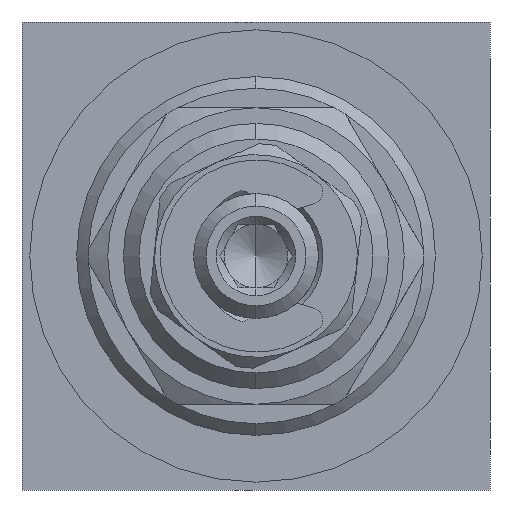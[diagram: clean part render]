
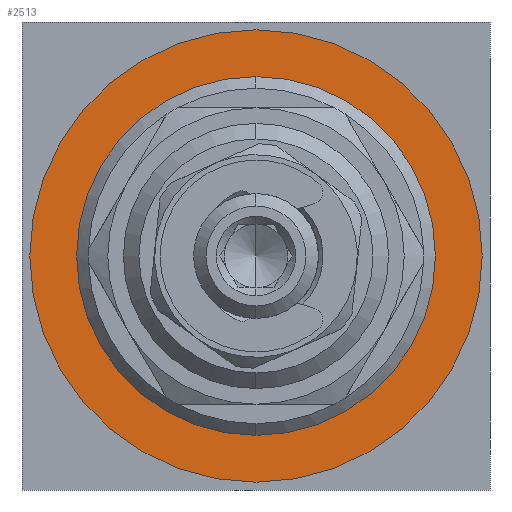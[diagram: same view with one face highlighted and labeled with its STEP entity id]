
A CAD part, left-side view. The second image highlights one B-rep face of the part: STEP entity #2513.
In plain terms, the highlighted planar face has unit normal (-1, 0, 0).
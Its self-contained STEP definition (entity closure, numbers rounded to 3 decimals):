
#33 = FACE_OUTER_BOUND ( 'NONE', #9918, .T. ) ;
#222 = DIRECTION ( 'NONE',  ( -1., 0., 0. ) ) ;
#284 = DIRECTION ( 'NONE',  ( 0., 0., -1. ) ) ;
#287 = CARTESIAN_POINT ( 'NONE',  ( 0.3, 0., 14.5 ) ) ;
#586 = DIRECTION ( 'NONE',  ( -1., 0., 0. ) ) ;
#694 = CARTESIAN_POINT ( 'NONE',  ( 0.3, 0., 11.5 ) ) ;
#751 = CIRCLE ( 'NONE', #8418, 11.5 ) ;
#807 = VERTEX_POINT ( 'NONE', #287 ) ;
#1027 = EDGE_CURVE ( 'NONE', #7122, #807, #10500, .T. ) ;
#1542 = CARTESIAN_POINT ( 'NONE',  ( 0.3, 0., 0. ) ) ;
#1827 = EDGE_CURVE ( 'NONE', #11832, #2607, #7692, .T. ) ;
#1928 = AXIS2_PLACEMENT_3D ( 'NONE', #11246, #10275, #9275 ) ;
#2513 = ADVANCED_FACE ( 'NONE', ( #2634, #33 ), #7369, .T. ) ;
#2607 = VERTEX_POINT ( 'NONE', #7537 ) ;
#2634 = FACE_BOUND ( 'NONE', #10989, .T. ) ;
#3400 = EDGE_CURVE ( 'NONE', #2607, #11832, #751, .T. ) ;
#3741 = ORIENTED_EDGE ( 'NONE', *, *, #3400, .F. ) ;
#4605 = AXIS2_PLACEMENT_3D ( 'NONE', #6108, #222, #7085 ) ;
#5008 = ORIENTED_EDGE ( 'NONE', *, *, #1827, .F. ) ;
#5124 = DIRECTION ( 'NONE',  ( -1., 0., 0. ) ) ;
#5725 = CARTESIAN_POINT ( 'NONE',  ( 0.3, 0., -14.5 ) ) ;
#6108 = CARTESIAN_POINT ( 'NONE',  ( 0.3, 0., 0. ) ) ;
#6734 = AXIS2_PLACEMENT_3D ( 'NONE', #11047, #5124, #8150 ) ;
#7085 = DIRECTION ( 'NONE',  ( 0., 0., 1. ) ) ;
#7122 = VERTEX_POINT ( 'NONE', #5725 ) ;
#7369 = PLANE ( 'NONE',  #1928 ) ;
#7537 = CARTESIAN_POINT ( 'NONE',  ( 0.3, 0., -11.5 ) ) ;
#7692 = CIRCLE ( 'NONE', #12554, 11.5 ) ;
#7912 = ORIENTED_EDGE ( 'NONE', *, *, #11524, .T. ) ;
#8150 = DIRECTION ( 'NONE',  ( 0., 0., 1. ) ) ;
#8418 = AXIS2_PLACEMENT_3D ( 'NONE', #11081, #12078, #284 ) ;
#9275 = DIRECTION ( 'NONE',  ( 0., 0., 1. ) ) ;
#9918 = EDGE_LOOP ( 'NONE', ( #7912, #11768 ) ) ;
#10006 = CIRCLE ( 'NONE', #4605, 14.5 ) ;
#10275 = DIRECTION ( 'NONE',  ( -1., 0., 0. ) ) ;
#10500 = CIRCLE ( 'NONE', #6734, 14.5 ) ;
#10989 = EDGE_LOOP ( 'NONE', ( #3741, #5008 ) ) ;
#11047 = CARTESIAN_POINT ( 'NONE',  ( 0.3, 0., 0. ) ) ;
#11081 = CARTESIAN_POINT ( 'NONE',  ( 0.3, 0., 0. ) ) ;
#11246 = CARTESIAN_POINT ( 'NONE',  ( 0.3, 0., -14.5 ) ) ;
#11524 = EDGE_CURVE ( 'NONE', #807, #7122, #10006, .T. ) ;
#11768 = ORIENTED_EDGE ( 'NONE', *, *, #1027, .T. ) ;
#11832 = VERTEX_POINT ( 'NONE', #694 ) ;
#12078 = DIRECTION ( 'NONE',  ( -1., 0., 0. ) ) ;
#12392 = DIRECTION ( 'NONE',  ( 0., 0., -1. ) ) ;
#12554 = AXIS2_PLACEMENT_3D ( 'NONE', #1542, #586, #12392 ) ;
